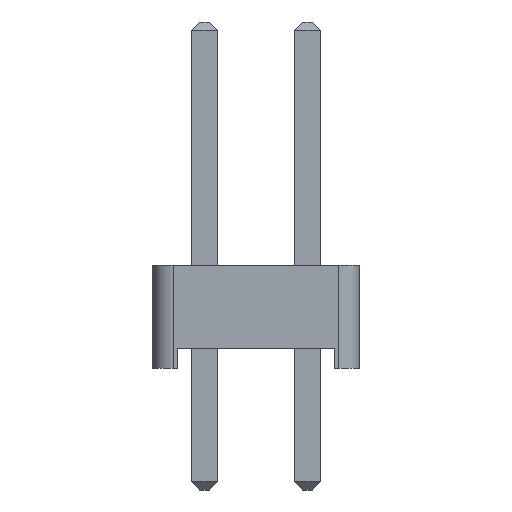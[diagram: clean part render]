
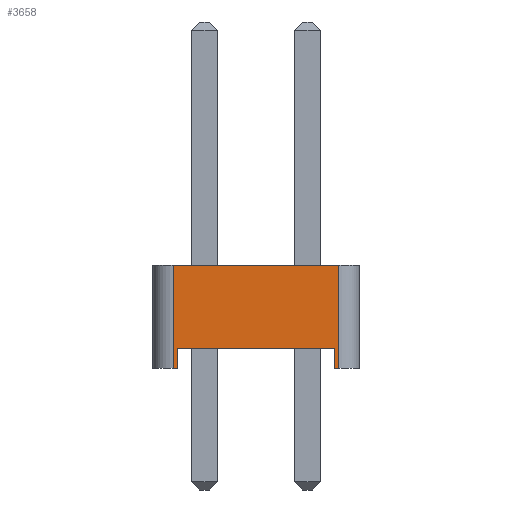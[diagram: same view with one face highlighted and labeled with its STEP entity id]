
A CAD part, left-side view. The second image highlights one B-rep face of the part: STEP entity #3658.
In plain terms, the highlighted planar face has unit normal (-1, 0, 0).
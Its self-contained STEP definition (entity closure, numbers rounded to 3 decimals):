
#3398 = VERTEX_POINT('',#3399);
#3399 = CARTESIAN_POINT('',(-1.27,2.04,0.));
#3407 = PLANE('',#3408);
#3408 = AXIS2_PLACEMENT_3D('',#3409,#3410,#3411);
#3409 = CARTESIAN_POINT('',(0.,0.,0.));
#3410 = DIRECTION('',(-0.,-0.,-1.));
#3411 = DIRECTION('',(-1.,0.,0.));
#3423 = CYLINDRICAL_SURFACE('',#3424,0.5);
#3424 = AXIS2_PLACEMENT_3D('',#3425,#3426,#3427);
#3425 = CARTESIAN_POINT('',(-0.77,2.04,0.));
#3426 = DIRECTION('',(0.,0.,1.));
#3427 = DIRECTION('',(0.,1.,0.));
#3525 = VERTEX_POINT('',#3526);
#3526 = CARTESIAN_POINT('',(-1.27,1.94,0.));
#3540 = PLANE('',#3541);
#3541 = AXIS2_PLACEMENT_3D('',#3542,#3543,#3544);
#3542 = CARTESIAN_POINT('',(1.27,1.94,0.));
#3543 = DIRECTION('',(0.,-1.,0.));
#3544 = DIRECTION('',(-1.,0.,0.));
#3552 = EDGE_CURVE('',#3525,#3398,#3553,.T.);
#3553 = SURFACE_CURVE('',#3554,(#3558,#3565),.PCURVE_S1.);
#3554 = LINE('',#3555,#3556);
#3555 = CARTESIAN_POINT('',(-1.27,-2.54,0.));
#3556 = VECTOR('',#3557,1.);
#3557 = DIRECTION('',(0.,1.,0.));
#3558 = PCURVE('',#3407,#3559);
#3559 = DEFINITIONAL_REPRESENTATION('',(#3560),#3564);
#3560 = LINE('',#3561,#3562);
#3561 = CARTESIAN_POINT('',(1.27,-2.54));
#3562 = VECTOR('',#3563,1.);
#3563 = DIRECTION('',(0.,1.));
#3564 = ( GEOMETRIC_REPRESENTATION_CONTEXT(2) 
PARAMETRIC_REPRESENTATION_CONTEXT() REPRESENTATION_CONTEXT('2D SPACE',''
  ) );
#3565 = PCURVE('',#3566,#3571);
#3566 = PLANE('',#3567);
#3567 = AXIS2_PLACEMENT_3D('',#3568,#3569,#3570);
#3568 = CARTESIAN_POINT('',(-1.27,-2.54,0.));
#3569 = DIRECTION('',(-1.,0.,0.));
#3570 = DIRECTION('',(0.,1.,0.));
#3571 = DEFINITIONAL_REPRESENTATION('',(#3572),#3576);
#3572 = LINE('',#3573,#3574);
#3573 = CARTESIAN_POINT('',(0.,0.));
#3574 = VECTOR('',#3575,1.);
#3575 = DIRECTION('',(1.,0.));
#3576 = ( GEOMETRIC_REPRESENTATION_CONTEXT(2) 
PARAMETRIC_REPRESENTATION_CONTEXT() REPRESENTATION_CONTEXT('2D SPACE',''
  ) );
#3582 = EDGE_CURVE('',#3398,#3583,#3585,.T.);
#3583 = VERTEX_POINT('',#3584);
#3584 = CARTESIAN_POINT('',(-1.27,2.04,2.54));
#3585 = SURFACE_CURVE('',#3586,(#3590,#3597),.PCURVE_S1.);
#3586 = LINE('',#3587,#3588);
#3587 = CARTESIAN_POINT('',(-1.27,2.04,0.));
#3588 = VECTOR('',#3589,1.);
#3589 = DIRECTION('',(0.,0.,1.));
#3590 = PCURVE('',#3423,#3591);
#3591 = DEFINITIONAL_REPRESENTATION('',(#3592),#3596);
#3592 = LINE('',#3593,#3594);
#3593 = CARTESIAN_POINT('',(1.571,0.));
#3594 = VECTOR('',#3595,1.);
#3595 = DIRECTION('',(0.,1.));
#3596 = ( GEOMETRIC_REPRESENTATION_CONTEXT(2) 
PARAMETRIC_REPRESENTATION_CONTEXT() REPRESENTATION_CONTEXT('2D SPACE',''
  ) );
#3597 = PCURVE('',#3566,#3598);
#3598 = DEFINITIONAL_REPRESENTATION('',(#3599),#3603);
#3599 = LINE('',#3600,#3601);
#3600 = CARTESIAN_POINT('',(4.58,0.));
#3601 = VECTOR('',#3602,1.);
#3602 = DIRECTION('',(0.,-1.));
#3603 = ( GEOMETRIC_REPRESENTATION_CONTEXT(2) 
PARAMETRIC_REPRESENTATION_CONTEXT() REPRESENTATION_CONTEXT('2D SPACE',''
  ) );
#3622 = PLANE('',#3623);
#3623 = AXIS2_PLACEMENT_3D('',#3624,#3625,#3626);
#3624 = CARTESIAN_POINT('',(0.,0.,2.54));
#3625 = DIRECTION('',(-0.,-0.,-1.));
#3626 = DIRECTION('',(-1.,0.,0.));
#3658 = ADVANCED_FACE('',(#3659),#3566,.T.);
#3659 = FACE_BOUND('',#3660,.T.);
#3660 = EDGE_LOOP('',(#3661,#3691,#3719,#3740,#3741,#3742,#3765,#3793));
#3661 = ORIENTED_EDGE('',*,*,#3662,.F.);
#3662 = EDGE_CURVE('',#3663,#3665,#3667,.T.);
#3663 = VERTEX_POINT('',#3664);
#3664 = CARTESIAN_POINT('',(-1.27,-2.04,0.));
#3665 = VERTEX_POINT('',#3666);
#3666 = CARTESIAN_POINT('',(-1.27,-1.94,0.));
#3667 = SURFACE_CURVE('',#3668,(#3672,#3679),.PCURVE_S1.);
#3668 = LINE('',#3669,#3670);
#3669 = CARTESIAN_POINT('',(-1.27,-2.54,0.));
#3670 = VECTOR('',#3671,1.);
#3671 = DIRECTION('',(0.,1.,0.));
#3672 = PCURVE('',#3566,#3673);
#3673 = DEFINITIONAL_REPRESENTATION('',(#3674),#3678);
#3674 = LINE('',#3675,#3676);
#3675 = CARTESIAN_POINT('',(0.,0.));
#3676 = VECTOR('',#3677,1.);
#3677 = DIRECTION('',(1.,0.));
#3678 = ( GEOMETRIC_REPRESENTATION_CONTEXT(2) 
PARAMETRIC_REPRESENTATION_CONTEXT() REPRESENTATION_CONTEXT('2D SPACE',''
  ) );
#3679 = PCURVE('',#3680,#3685);
#3680 = PLANE('',#3681);
#3681 = AXIS2_PLACEMENT_3D('',#3682,#3683,#3684);
#3682 = CARTESIAN_POINT('',(0.,0.,0.));
#3683 = DIRECTION('',(-0.,-0.,-1.));
#3684 = DIRECTION('',(-1.,0.,0.));
#3685 = DEFINITIONAL_REPRESENTATION('',(#3686),#3690);
#3686 = LINE('',#3687,#3688);
#3687 = CARTESIAN_POINT('',(1.27,-2.54));
#3688 = VECTOR('',#3689,1.);
#3689 = DIRECTION('',(0.,1.));
#3690 = ( GEOMETRIC_REPRESENTATION_CONTEXT(2) 
PARAMETRIC_REPRESENTATION_CONTEXT() REPRESENTATION_CONTEXT('2D SPACE',''
  ) );
#3691 = ORIENTED_EDGE('',*,*,#3692,.T.);
#3692 = EDGE_CURVE('',#3663,#3693,#3695,.T.);
#3693 = VERTEX_POINT('',#3694);
#3694 = CARTESIAN_POINT('',(-1.27,-2.04,2.54));
#3695 = SURFACE_CURVE('',#3696,(#3700,#3707),.PCURVE_S1.);
#3696 = LINE('',#3697,#3698);
#3697 = CARTESIAN_POINT('',(-1.27,-2.04,0.));
#3698 = VECTOR('',#3699,1.);
#3699 = DIRECTION('',(0.,0.,1.));
#3700 = PCURVE('',#3566,#3701);
#3701 = DEFINITIONAL_REPRESENTATION('',(#3702),#3706);
#3702 = LINE('',#3703,#3704);
#3703 = CARTESIAN_POINT('',(0.5,0.));
#3704 = VECTOR('',#3705,1.);
#3705 = DIRECTION('',(0.,-1.));
#3706 = ( GEOMETRIC_REPRESENTATION_CONTEXT(2) 
PARAMETRIC_REPRESENTATION_CONTEXT() REPRESENTATION_CONTEXT('2D SPACE',''
  ) );
#3707 = PCURVE('',#3708,#3713);
#3708 = CYLINDRICAL_SURFACE('',#3709,0.5);
#3709 = AXIS2_PLACEMENT_3D('',#3710,#3711,#3712);
#3710 = CARTESIAN_POINT('',(-0.77,-2.04,0.));
#3711 = DIRECTION('',(0.,0.,1.));
#3712 = DIRECTION('',(0.,-1.,0.));
#3713 = DEFINITIONAL_REPRESENTATION('',(#3714),#3718);
#3714 = LINE('',#3715,#3716);
#3715 = CARTESIAN_POINT('',(-1.571,0.));
#3716 = VECTOR('',#3717,1.);
#3717 = DIRECTION('',(-0.,1.));
#3718 = ( GEOMETRIC_REPRESENTATION_CONTEXT(2) 
PARAMETRIC_REPRESENTATION_CONTEXT() REPRESENTATION_CONTEXT('2D SPACE',''
  ) );
#3719 = ORIENTED_EDGE('',*,*,#3720,.T.);
#3720 = EDGE_CURVE('',#3693,#3583,#3721,.T.);
#3721 = SURFACE_CURVE('',#3722,(#3726,#3733),.PCURVE_S1.);
#3722 = LINE('',#3723,#3724);
#3723 = CARTESIAN_POINT('',(-1.27,-2.54,2.54));
#3724 = VECTOR('',#3725,1.);
#3725 = DIRECTION('',(0.,1.,0.));
#3726 = PCURVE('',#3566,#3727);
#3727 = DEFINITIONAL_REPRESENTATION('',(#3728),#3732);
#3728 = LINE('',#3729,#3730);
#3729 = CARTESIAN_POINT('',(0.,-2.54));
#3730 = VECTOR('',#3731,1.);
#3731 = DIRECTION('',(1.,0.));
#3732 = ( GEOMETRIC_REPRESENTATION_CONTEXT(2) 
PARAMETRIC_REPRESENTATION_CONTEXT() REPRESENTATION_CONTEXT('2D SPACE',''
  ) );
#3733 = PCURVE('',#3622,#3734);
#3734 = DEFINITIONAL_REPRESENTATION('',(#3735),#3739);
#3735 = LINE('',#3736,#3737);
#3736 = CARTESIAN_POINT('',(1.27,-2.54));
#3737 = VECTOR('',#3738,1.);
#3738 = DIRECTION('',(0.,1.));
#3739 = ( GEOMETRIC_REPRESENTATION_CONTEXT(2) 
PARAMETRIC_REPRESENTATION_CONTEXT() REPRESENTATION_CONTEXT('2D SPACE',''
  ) );
#3740 = ORIENTED_EDGE('',*,*,#3582,.F.);
#3741 = ORIENTED_EDGE('',*,*,#3552,.F.);
#3742 = ORIENTED_EDGE('',*,*,#3743,.T.);
#3743 = EDGE_CURVE('',#3525,#3744,#3746,.T.);
#3744 = VERTEX_POINT('',#3745);
#3745 = CARTESIAN_POINT('',(-1.27,1.94,0.5));
#3746 = SURFACE_CURVE('',#3747,(#3751,#3758),.PCURVE_S1.);
#3747 = LINE('',#3748,#3749);
#3748 = CARTESIAN_POINT('',(-1.27,1.94,0.));
#3749 = VECTOR('',#3750,1.);
#3750 = DIRECTION('',(0.,0.,1.));
#3751 = PCURVE('',#3566,#3752);
#3752 = DEFINITIONAL_REPRESENTATION('',(#3753),#3757);
#3753 = LINE('',#3754,#3755);
#3754 = CARTESIAN_POINT('',(4.48,0.));
#3755 = VECTOR('',#3756,1.);
#3756 = DIRECTION('',(0.,-1.));
#3757 = ( GEOMETRIC_REPRESENTATION_CONTEXT(2) 
PARAMETRIC_REPRESENTATION_CONTEXT() REPRESENTATION_CONTEXT('2D SPACE',''
  ) );
#3758 = PCURVE('',#3540,#3759);
#3759 = DEFINITIONAL_REPRESENTATION('',(#3760),#3764);
#3760 = LINE('',#3761,#3762);
#3761 = CARTESIAN_POINT('',(2.54,0.));
#3762 = VECTOR('',#3763,1.);
#3763 = DIRECTION('',(0.,-1.));
#3764 = ( GEOMETRIC_REPRESENTATION_CONTEXT(2) 
PARAMETRIC_REPRESENTATION_CONTEXT() REPRESENTATION_CONTEXT('2D SPACE',''
  ) );
#3765 = ORIENTED_EDGE('',*,*,#3766,.T.);
#3766 = EDGE_CURVE('',#3744,#3767,#3769,.T.);
#3767 = VERTEX_POINT('',#3768);
#3768 = CARTESIAN_POINT('',(-1.27,-1.94,0.5));
#3769 = SURFACE_CURVE('',#3770,(#3774,#3781),.PCURVE_S1.);
#3770 = LINE('',#3771,#3772);
#3771 = CARTESIAN_POINT('',(-1.27,1.94,0.5));
#3772 = VECTOR('',#3773,1.);
#3773 = DIRECTION('',(0.,-1.,0.));
#3774 = PCURVE('',#3566,#3775);
#3775 = DEFINITIONAL_REPRESENTATION('',(#3776),#3780);
#3776 = LINE('',#3777,#3778);
#3777 = CARTESIAN_POINT('',(4.48,-0.5));
#3778 = VECTOR('',#3779,1.);
#3779 = DIRECTION('',(-1.,0.));
#3780 = ( GEOMETRIC_REPRESENTATION_CONTEXT(2) 
PARAMETRIC_REPRESENTATION_CONTEXT() REPRESENTATION_CONTEXT('2D SPACE',''
  ) );
#3781 = PCURVE('',#3782,#3787);
#3782 = PLANE('',#3783);
#3783 = AXIS2_PLACEMENT_3D('',#3784,#3785,#3786);
#3784 = CARTESIAN_POINT('',(0.,0.,0.5));
#3785 = DIRECTION('',(0.,0.,1.));
#3786 = DIRECTION('',(1.,0.,0.));
#3787 = DEFINITIONAL_REPRESENTATION('',(#3788),#3792);
#3788 = LINE('',#3789,#3790);
#3789 = CARTESIAN_POINT('',(-1.27,1.94));
#3790 = VECTOR('',#3791,1.);
#3791 = DIRECTION('',(0.,-1.));
#3792 = ( GEOMETRIC_REPRESENTATION_CONTEXT(2) 
PARAMETRIC_REPRESENTATION_CONTEXT() REPRESENTATION_CONTEXT('2D SPACE',''
  ) );
#3793 = ORIENTED_EDGE('',*,*,#3794,.F.);
#3794 = EDGE_CURVE('',#3665,#3767,#3795,.T.);
#3795 = SURFACE_CURVE('',#3796,(#3800,#3807),.PCURVE_S1.);
#3796 = LINE('',#3797,#3798);
#3797 = CARTESIAN_POINT('',(-1.27,-1.94,0.));
#3798 = VECTOR('',#3799,1.);
#3799 = DIRECTION('',(0.,0.,1.));
#3800 = PCURVE('',#3566,#3801);
#3801 = DEFINITIONAL_REPRESENTATION('',(#3802),#3806);
#3802 = LINE('',#3803,#3804);
#3803 = CARTESIAN_POINT('',(0.6,0.));
#3804 = VECTOR('',#3805,1.);
#3805 = DIRECTION('',(0.,-1.));
#3806 = ( GEOMETRIC_REPRESENTATION_CONTEXT(2) 
PARAMETRIC_REPRESENTATION_CONTEXT() REPRESENTATION_CONTEXT('2D SPACE',''
  ) );
#3807 = PCURVE('',#3808,#3813);
#3808 = PLANE('',#3809);
#3809 = AXIS2_PLACEMENT_3D('',#3810,#3811,#3812);
#3810 = CARTESIAN_POINT('',(-1.27,-1.94,0.));
#3811 = DIRECTION('',(0.,1.,0.));
#3812 = DIRECTION('',(1.,0.,0.));
#3813 = DEFINITIONAL_REPRESENTATION('',(#3814),#3818);
#3814 = LINE('',#3815,#3816);
#3815 = CARTESIAN_POINT('',(0.,0.));
#3816 = VECTOR('',#3817,1.);
#3817 = DIRECTION('',(0.,-1.));
#3818 = ( GEOMETRIC_REPRESENTATION_CONTEXT(2) 
PARAMETRIC_REPRESENTATION_CONTEXT() REPRESENTATION_CONTEXT('2D SPACE',''
  ) );
